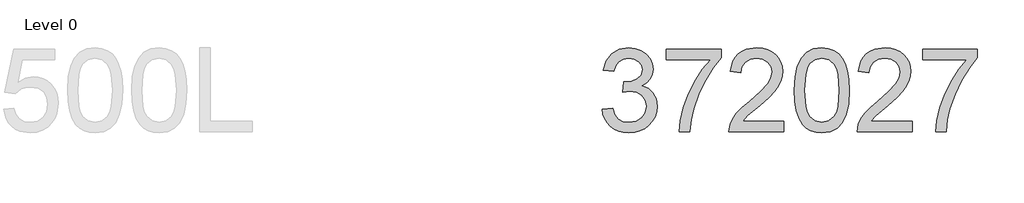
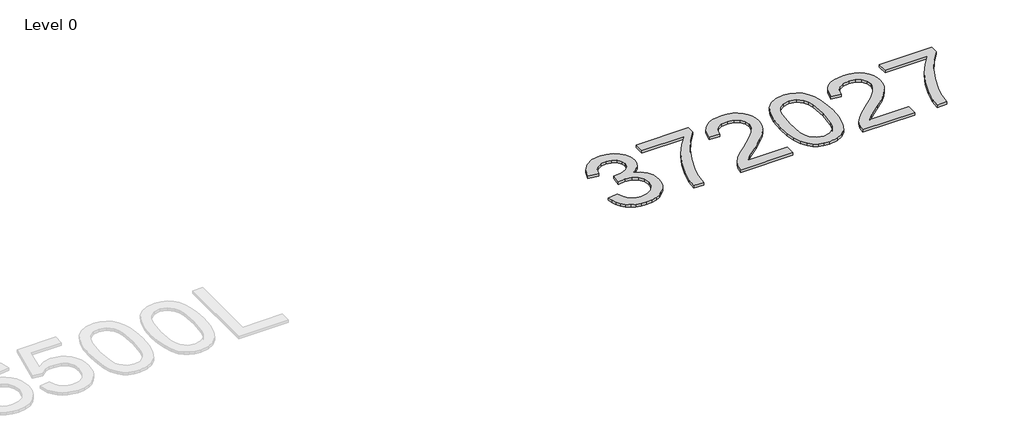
# One storey, part 14 of 20: 1 proxy.
"""IFC4 building model written with IfcOpenShell, lengths in millimetres."""

from ifc_helpers import new_model, si_unit, origin, origin_with_axes, place, context, project, spatial, polyline, outline, extrude, element, save

model = new_model("IFC4")

# Units and contexts
model_context = context("Model", 3, world=origin())
ifc_project = project(units=[si_unit("LENGTHUNIT", "METRE", prefix="MILLI")], contexts=[model_context])

# Site, building, storey
site = spatial("IfcSite", under=ifc_project)
building = spatial("IfcBuilding", under=site)
storey = spatial("IfcBuildingStorey", under=building, Name="Level 0", Elevation=0.0)

# Proxy
placement = place(None, origin())
element("IfcBuildingElementProxy", 1, Name="300mm Arial", ObjectType="300mm Arial", at=placement, inside=storey, context=model_context, shape_type="SweptSolid", body=[
    extrude(outline(polyline([(-6346.595864, -2620.925676), (-6308.9247477, -2616.2167865), (-6300.491053, -2639.8899929), (-6288.139415, -2655.8744656), (-6271.2628285, -2664.979545), (-6249.2542881, -2668.0145714), (-6223.428972, -2663.8391108), (-6203.4897679, -2651.3127288), (-6190.7426568, -2632.6243235), (-6186.4936197, -2609.9627926), (-6190.7058686, -2588.4508929), (-6203.3426151, -2571.0040893), (-6222.4724789, -2559.4433976), (-6246.1640793, -2555.5898337), (-6272.5780066, -2559.710112), (-6268.3841519, -2522.0389957), (-6262.3508871, -2522.4804541), (-6239.7813267, -2519.7765215), (-6219.6029993, -2511.6647235), (-6205.3659661, -2497.942725), (-6200.6202883, -2478.4081911), (-6204.059985, -2462.1386099), (-6214.379075, -2448.9408433), (-6230.1244244, -2440.1944488), (-6249.8428993, -2437.278984), (-6269.5981624, -2440.22204), (-6285.748182, -2449.0512079), (-6297.5388, -2463.7664877), (-6304.2158582, -2484.3678794), (-6341.8869745, -2479.6589899), (-6330.7953323, -2445.8322404), (-6311.0584633, -2420.5771415), (-6284.0559248, -2404.8501862), (-6251.1672745, -2399.6078677), (-6227.484871, -2402.1922387), (-6205.7338481, -2409.9453518), (-6187.3949306, -2422.1774281), (-6173.9488437, -2438.198689), (-6165.69909, -2456.6571681), (-6162.949172, -2476.2008991), (-6165.5611342, -2494.4110579), (-6173.3970207, -2510.9289595), (-6186.3464669, -2525.0004458), (-6204.2991083, -2535.8713587), (-6180.7178724, -2545.3995024), (-6163.2434776, -2561.6230984), (-6152.427747, -2583.6592299), (-6148.8225034, -2610.6249802), (-6150.6251252, -2629.7364498), (-6156.0329905, -2647.3396033), (-6165.0460994, -2663.4344406), (-6177.6644518, -2678.0209617), (-6193.0373207, -2690.1242793), (-6210.3139789, -2698.7695062), (-6229.4944264, -2703.9566423), (-6250.5786633, -2705.6856877), (-6269.6349506, -2704.2095612), (-6286.9989808, -2699.7811817), (-6302.6707538, -2692.4005492), (-6316.6502696, -2682.0676636), (-6328.3719097, -2669.3895304), (-6337.2700555, -2654.9731547), (-6343.3447069, -2638.8185366), (-6346.595864, -2620.925676)])), origin_with_axes(), (0.0, 0.0, 1.0), 10.0),
    extrude(outline(polyline([(-6115.8602767, -2441.9878736), (-6115.8602767, -2404.3167573), (-5918.086916, -2404.3167573), (-5918.086916, -2434.7773865), (-5946.2758739, -2470.452743), (-5974.1889203, -2515.82179), (-5998.8094228, -2566.7458552), (-6017.1207491, -2619.0862661), (-6026.0970698, -2658.2473044), (-6031.100265, -2700.9767982), (-6068.7713813, -2700.9767982), (-6064.6970882, -2662.1468536), (-6053.7985841, -2615.9960573), (-6036.3701745, -2567.076949), (-6012.7061652, -2519.9420684), (-5985.0782274, -2477.3321363), (-5955.7580324, -2441.9878736), (-6115.8602767, -2441.9878736)])), origin_with_axes(), (0.0, 0.0, 1.0), 10.0),
    extrude(outline(polyline([(-5692.0602182, -2663.3056819), (-5692.0602182, -2700.9767982), (-5889.8335788, -2700.9767982), (-5885.7868769, -2675.0043293), (-5876.4978565, -2654.7064402), (-5862.9046168, -2635.0155564), (-5843.2413241, -2614.4049677), (-5815.742145, -2591.3479636), (-5775.0911845, -2555.2403458), (-5750.7006082, -2528.5872952), (-5738.5053201, -2506.9558339), (-5734.4402241, -2485.9129838), (-5738.2753939, -2467.0498345), (-5749.7809033, -2451.3688645), (-5767.4668302, -2440.8014541), (-5789.8432525, -2437.278984), (-5813.341715, -2440.7186807), (-5831.597859, -2451.0377707), (-5843.3792799, -2467.4269135), (-5847.453573, -2489.076769), (-5885.1246893, -2484.3678794), (-5875.9920187, -2447.9291678), (-5867.4456601, -2433.3932305), (-5856.2459527, -2421.3129054), (-5842.6504137, -2411.8169514), (-5826.9165606, -2405.0341272), (-5789.0339121, -2399.6078677), (-5768.8440884, -2401.1161839), (-5750.8753522, -2405.6411325), (-5735.1277035, -2413.1827134), (-5721.6011424, -2423.7409266), (-5710.7371273, -2436.534023), (-5702.9771164, -2450.7802533), (-5698.3211099, -2466.4796174), (-5696.7691077, -2483.6321154), (-5698.4429708, -2501.6491361), (-5703.4645601, -2519.3534572), (-5712.3765014, -2537.3612808), (-5725.7214208, -2556.2888095), (-5746.9941971, -2578.885961), (-5779.6897095, -2607.9026534), (-5823.0262085, -2644.1390299), (-5840.0223567, -2663.3056819), (-5692.0602182, -2663.3056819)])), origin_with_axes(), (0.0, 0.0, 1.0), 10.0),
    extrude(outline(polyline([(-5654.3891019, -2552.7203541), (-5651.6207899, -2504.4818275), (-5643.3158539, -2466.0105679), (-5629.5570672, -2436.717964), (-5610.4272035, -2416.0154047), (-5585.7883069, -2403.709752), (-5555.5024216, -2399.6078677), (-5532.2890677, -2402.0358889), (-5511.503735, -2409.3199524), (-5494.1213107, -2421.1749497), (-5481.1166822, -2437.3157722), (-5471.2942329, -2457.6044643), (-5463.4583464, -2481.9030701), (-5458.3263926, -2512.7591724), (-5456.6157413, -2552.7203541), (-5459.3564622, -2600.6829692), (-5467.5786248, -2639.0622584), (-5481.2546379, -2668.3824534), (-5500.3569105, -2689.1677861), (-5525.0509895, -2701.5562123), (-5555.5024216, -2705.6856877), (-5576.2509661, -2703.892263), (-5594.6450659, -2698.5119888), (-5610.6847209, -2689.5448652), (-5624.3699311, -2676.9908921), (-5637.5033183, -2654.2971715), (-5646.8843092, -2626.0208417), (-5652.5129037, -2592.1619025), (-5654.3891019, -2552.7203541)]), holes=[polyline([(-5616.7179856, -2552.6467777), (-5612.3034017, -2611.9033701), (-5606.7851717, -2632.1713688), (-5599.0596498, -2646.1991691), (-5579.3411749, -2662.5607208), (-5555.5024216, -2668.0145714), (-5531.6636683, -2662.5423267), (-5511.9451934, -2646.1255927), (-5504.2196715, -2632.0747997), (-5498.7014415, -2611.8113996), (-5494.2868576, -2552.6467777), (-5498.5542887, -2494.7237576), (-5503.8885777, -2474.5224375), (-5511.3565822, -2460.1612441), (-5531.0382689, -2442.9995491), (-5555.94388, -2437.278984), (-5579.5251159, -2442.3189674), (-5598.4710386, -2457.4389174), (-5606.4540779, -2473.0739022), (-5612.1562489, -2494.1535405), (-5616.7179856, -2552.6467777)])]), origin_with_axes(), (0.0, 0.0, 1.0), 10.0),
    extrude(outline(polyline([(-5230.5890435, -2663.3056819), (-5230.5890435, -2700.9767982), (-5428.3624041, -2700.9767982), (-5424.3157021, -2675.0043293), (-5415.0266817, -2654.7064402), (-5401.433442, -2635.0155564), (-5381.7701494, -2614.4049677), (-5354.2709702, -2591.3479636), (-5313.6200098, -2555.2403458), (-5289.2294335, -2528.5872952), (-5277.0341454, -2506.9558339), (-5272.9690493, -2485.9129838), (-5276.8042191, -2467.0498345), (-5288.3097285, -2451.3688645), (-5305.9956554, -2440.8014541), (-5328.3720778, -2437.278984), (-5351.8705402, -2440.7186807), (-5370.1266842, -2451.0377707), (-5381.9081051, -2467.4269135), (-5385.9823982, -2489.076769), (-5423.6535145, -2484.3678794), (-5414.520844, -2447.9291678), (-5405.9744854, -2433.3932305), (-5394.7747779, -2421.3129054), (-5381.1792389, -2411.8169514), (-5365.4453858, -2405.0341272), (-5327.5627374, -2399.6078677), (-5307.3729136, -2401.1161839), (-5289.4041774, -2405.6411325), (-5273.6565288, -2413.1827134), (-5260.1299677, -2423.7409266), (-5249.2659525, -2436.534023), (-5241.5059417, -2450.7802533), (-5236.8499352, -2466.4796174), (-5235.297933, -2483.6321154), (-5236.9717961, -2501.6491361), (-5241.9933853, -2519.3534572), (-5250.9053266, -2537.3612808), (-5264.250246, -2556.2888095), (-5285.5230224, -2578.885961), (-5318.2185347, -2607.9026534), (-5361.5550337, -2644.1390299), (-5378.5511819, -2663.3056819), (-5230.5890435, -2663.3056819)])), origin_with_axes(), (0.0, 0.0, 1.0), 10.0),
    extrude(outline(polyline([(-5192.9179272, -2441.9878736), (-5192.9179272, -2404.3167573), (-4995.1445665, -2404.3167573), (-4995.1445665, -2434.7773865), (-5023.3335244, -2470.452743), (-5051.2465708, -2515.82179), (-5075.8670733, -2566.7458552), (-5094.1783997, -2619.0862661), (-5103.1547203, -2658.2473044), (-5108.1579155, -2700.9767982), (-5145.8290318, -2700.9767982), (-5141.7547387, -2662.1468536), (-5130.8562346, -2615.9960573), (-5113.427825, -2567.076949), (-5089.7638157, -2519.9420684), (-5062.1358779, -2477.3321363), (-5032.8156829, -2441.9878736), (-5192.9179272, -2441.9878736)])), origin_with_axes(), (0.0, 0.0, 1.0), 10.0),
])

save(model, "model.ifc")
